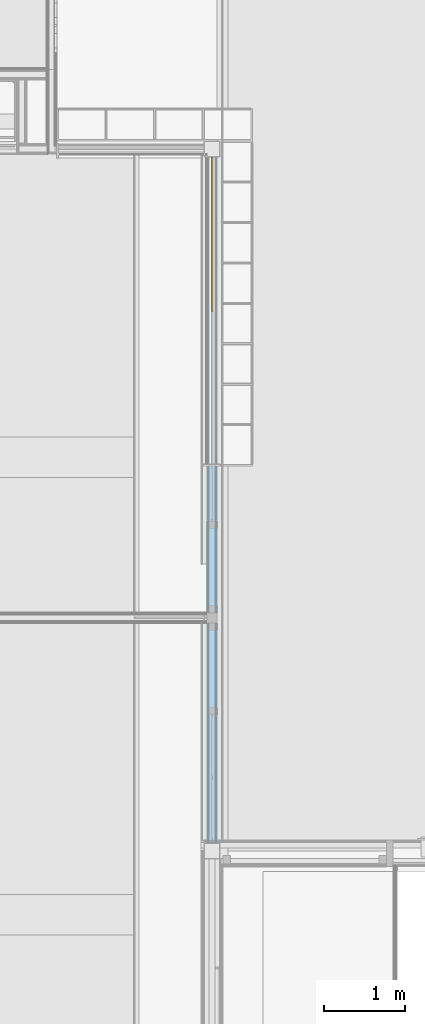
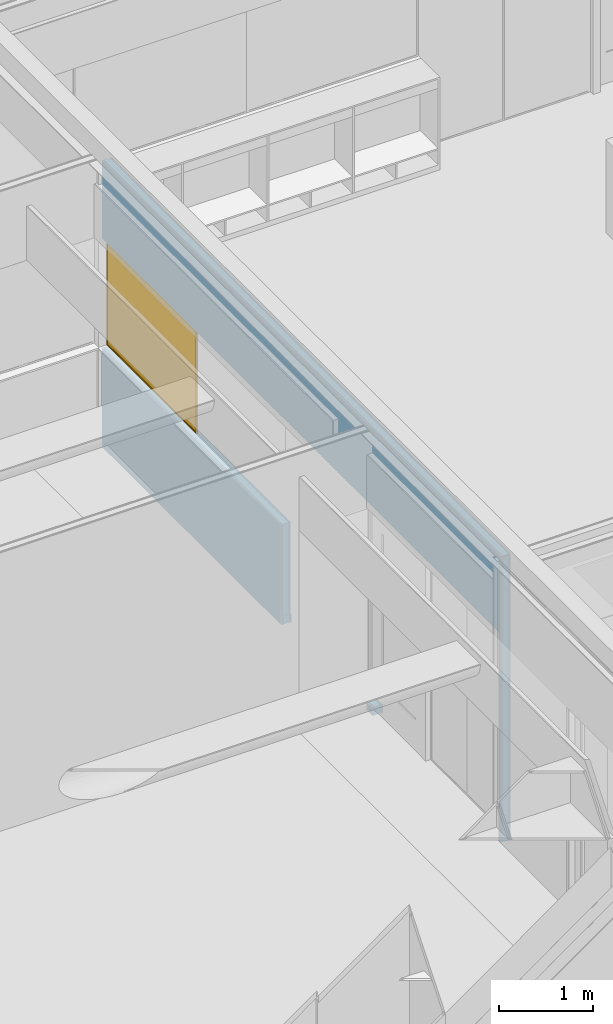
# One storey, part 62 of 137: 1 door, 7 openings, 1 element without a shape of its own, plus 5 elements that do not belong to this part.
"""IFC2X3 building model written with IfcOpenShell, lengths in millimetres."""

from ifc_helpers import new_model, entity, si_unit, converted_unit, derived_unit, money_unit, direction, frame, origin_with_axes, place, context, subcontext, project, spatial, open_shell, faceted_brep, surface_model, material, type_object, element, fill, aggregate, save


model = new_model("IFC2X3")

# Units and contexts
model_context = context("Model", 3, precision=0.01, world=origin_with_axes(), true_north=direction((0.0, 1.0)))
body_context = subcontext(model_context, "Body", "Model", "MODEL_VIEW")
ifc_project = project(units=[si_unit("LENGTHUNIT", "METRE", prefix="MILLI"), si_unit("AREAUNIT", "SQUARE_METRE"), si_unit("VOLUMEUNIT", "CUBIC_METRE"), converted_unit("PLANEANGLEUNIT", "DEGREE", entity("IfcPlaneAngleMeasure", 0.0174532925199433), si_unit("PLANEANGLEUNIT", "RADIAN"), dimensions=[0, 0, 0, 0, 0, 0, 0]), money_unit("EUR"), converted_unit("TIMEUNIT", "Year", entity("IfcTimeMeasure", 31556926.0), si_unit("TIMEUNIT", "SECOND"), dimensions=[0, 0, 1, 0, 0, 0, 0]), si_unit("MASSUNIT", "GRAM", prefix="KILO"), si_unit("THERMODYNAMICTEMPERATUREUNIT", "DEGREE_CELSIUS"), si_unit("LUMINOUSINTENSITYUNIT", "LUMEN"), si_unit("ENERGYUNIT", "JOULE", prefix="MEGA"), derived_unit("THERMALCONDUCTANCEUNIT", [(si_unit("POWERUNIT", "WATT"), 1), (si_unit("LENGTHUNIT", "METRE"), -1), (si_unit("THERMODYNAMICTEMPERATUREUNIT", "KELVIN"), -1)]), derived_unit("SPECIFICHEATCAPACITYUNIT", [(si_unit("ENERGYUNIT", "JOULE"), 1), (si_unit("MASSUNIT", "GRAM", prefix="KILO"), -1), (si_unit("THERMODYNAMICTEMPERATUREUNIT", "KELVIN"), -1)]), derived_unit("MASSDENSITYUNIT", [(si_unit("MASSUNIT", "GRAM", prefix="KILO"), 1), (si_unit("VOLUMEUNIT", "CUBIC_METRE"), -1)])], contexts=[model_context])

# Site, building, storey
site_placement = place(None, origin_with_axes())
site = spatial("IfcSite", under=ifc_project, at=site_placement, Name="Site", CompositionType="ELEMENT")
building_placement = place(site_placement, origin_with_axes())
building = spatial("IfcBuilding", under=site, at=building_placement, Name="Naam gebouw", CompositionType="ELEMENT")
storey_placement = place(building_placement, frame((0.0, 0.0, 3960.0), z_axis=(0.0, 0.0, 1.0), x_axis=(1.0, 0.0, 0.0)))
storey = spatial("IfcBuildingStorey", under=building, at=storey_placement, Name="1e verdieping", CompositionType="ELEMENT", Elevation=3960.0)

# Door
door_style = type_object("IfcDoorStyle", Name="R1 26", ConstructionType="NOTDEFINED", OperationType="SINGLE_SWING_RIGHT", ParameterTakesPrecedence=False, Sizeable=False)
proxy_placement = place(storey_placement, frame((8850.000000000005, 19449.9998112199, -100.0000000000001), z_axis=(0.0, 0.0, 1.0), x_axis=(0.0, -1.0, 0.0)))
opening_7_placement = place(proxy_placement, frame((1050.000000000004, 0.0, 1298.0), z_axis=(0.0, 0.0, 1.0), x_axis=(1.0, 0.0, 0.0)))
door_placement = place(opening_7_placement, frame((-949.9999999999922, 0.0, 0.0), z_axis=(0.0, 0.0, 1.0), x_axis=(1.0, 0.0, 0.0)))
door = element("IfcDoor", 1, at=door_placement, inside=storey, type_object=door_style, Name="_C.02", ObjectType="DOOR", OverallHeight=1400.0, OverallWidth=1900.0, context=body_context, shape_type="SurfaceModel", body=[
    faceted_brep([(1899.999999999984, 12.49999999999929, 2.000000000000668), (0.0, 12.49999999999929, 2.000000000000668), (0.0, 12.49999999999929, 19.99999999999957), (19.99999999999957, 12.49999999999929, 19.99999999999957), (1879.999999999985, 12.49999999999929, 19.99999999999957), (1899.999999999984, 12.49999999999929, 19.99999999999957), (0.0, -7.500000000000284, 2.000000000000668), (1899.999999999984, -7.500000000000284, 2.000000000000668), (0.0, -7.500000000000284, 19.99999999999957), (19.99999999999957, -7.500000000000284, 19.99999999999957), (1879.999999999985, -7.500000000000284, 19.99999999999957), (1899.999999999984, -7.500000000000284, 19.99999999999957)], [[[0, 1, 2, 3, 4, 5]], [[6, 1, 0, 7]], [[1, 6, 8, 2]], [[8, 9, 3, 2]], [[9, 10, 4, 3]], [[10, 11, 5, 4]], [[7, 0, 5, 11]], [[6, 7, 11, 10, 9, 8]]]),
    faceted_brep([(19.99999999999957, -7.500000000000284, 1380.0), (19.99999999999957, 12.49999999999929, 1380.0), (0.0, 12.49999999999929, 1380.0), (0.0, -7.500000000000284, 1380.0), (19.99999999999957, -7.500000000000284, 19.99999999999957), (19.99999999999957, 12.49999999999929, 19.99999999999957), (0.0, 12.49999999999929, 19.99999999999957), (0.0, -7.500000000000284, 19.99999999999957)], [[[0, 1, 2, 3]], [[4, 5, 1, 0]], [[1, 5, 6, 2]], [[3, 2, 6, 7]], [[0, 3, 7, 4]], [[7, 6, 5, 4]]]),
    faceted_brep([(1879.999999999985, -7.500000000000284, 19.99999999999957), (1879.999999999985, 12.49999999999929, 19.99999999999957), (1899.999999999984, 12.49999999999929, 19.99999999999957), (1899.999999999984, -7.500000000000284, 19.99999999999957), (1879.999999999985, -7.500000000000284, 1380.0), (1879.999999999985, 12.49999999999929, 1380.0), (1899.999999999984, 12.49999999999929, 1380.0), (1899.999999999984, -7.500000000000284, 1380.0)], [[[0, 1, 2, 3]], [[4, 5, 1, 0]], [[1, 5, 6, 2]], [[3, 2, 6, 7]], [[0, 3, 7, 4]], [[7, 6, 5, 4]]]),
    faceted_brep([(1879.999999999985, -7.500000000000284, 1380.0), (1879.999999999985, 12.49999999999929, 1380.0), (1899.999999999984, 12.49999999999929, 1380.0), (1899.999999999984, -7.500000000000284, 1380.0), (19.99999999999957, -7.500000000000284, 1380.0), (19.99999999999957, 12.49999999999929, 1380.0), (0.0, 12.49999999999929, 1380.0), (0.0, 12.49999999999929, 1400.0), (1899.999999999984, 12.49999999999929, 1400.0), (1899.999999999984, -7.500000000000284, 1400.0), (0.0, -7.500000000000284, 1400.0), (0.0, -7.500000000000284, 1380.0)], [[[0, 1, 2, 3]], [[4, 5, 1, 0]], [[1, 5, 6, 7, 8, 2]], [[3, 2, 8, 9]], [[0, 3, 9, 10, 11, 4]], [[11, 6, 5, 4]], [[10, 7, 6, 11]], [[9, 8, 7, 10]]]),
    surface_model("IfcShellBasedSurfaceModel", [(19.99999999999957, -2.500000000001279, 19.99999999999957), (1879.999999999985, -2.500000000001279, 19.99999999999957), (1879.999999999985, -2.500000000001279, 1380.0), (19.99999999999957, -2.500000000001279, 1380.0)], [open_shell([[[0, 1, 2, 3]]])]),
    surface_model("IfcShellBasedSurfaceModel", [(19.99999999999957, 7.500000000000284, 19.99999999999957), (19.99999999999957, 7.499999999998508, 1380.0), (1879.999999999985, 7.499999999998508, 1380.0), (1879.999999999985, 7.499999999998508, 19.99999999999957)], [open_shell([[[0, 1, 2, 3]]])]),
])

# Proxy, openings
building_element_proxy_type = type_object("IfcBuildingElementProxyType", Name="22 Metal stud 125 gips 125", PredefinedType="NOTDEFINED")
proxy = element("IfcBuildingElementProxy", 2, at=proxy_placement, inside=storey, type_object=building_element_proxy_type, Name="_Wand-x")
opening_1_placement = place(proxy_placement, frame((8119.999775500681, 0.0, 100.0000000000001), z_axis=(0.0, 0.0, 1.0), x_axis=(1.0, 0.0, 0.0)))
element("IfcOpeningElement", 3, at=opening_1_placement, cuts=proxy, Name="_B.08", context=body_context, shape_type="Brep", body=[
    faceted_brep([(-384.999925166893, 12.49999999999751, -100.0000000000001), (-384.999925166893, 12.49999999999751, 2600.0), (-384.999925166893, 63.49999999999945, 2600.0), (-384.999925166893, 63.49999999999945, -100.0000000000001), (-384.999925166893, -63.49999999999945, -100.0000000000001), (-384.999925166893, -63.49999999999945, 2600.0), (384.999925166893, 12.49999999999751, 2600.0), (384.999925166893, 63.49999999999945, 2600.0), (384.999925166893, -63.49999999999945, 2600.0), (384.999925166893, 63.49999999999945, -100.0000000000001), (384.999925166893, 12.49999999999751, -100.0000000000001), (384.999925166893, -63.49999999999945, -100.0000000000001)], [[[0, 1, 2, 3]], [[1, 0, 4, 5]], [[6, 7, 2, 1, 5, 8]], [[7, 9, 3, 2]], [[0, 3, 9, 10, 11, 4]], [[5, 4, 11, 8]], [[6, 10, 9, 7]], [[10, 6, 8, 11]]]),
])
opening_2_placement = place(proxy_placement, frame((2950.000000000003, 0.0, 1298.0), z_axis=(0.0, 0.0, 1.0), x_axis=(1.0, 0.0, 0.0)))
element("IfcOpeningElement", 4, at=opening_2_placement, cuts=proxy, Name="_C.02", context=body_context, shape_type="Brep", body=[
    faceted_brep([(-949.9999999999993, 12.49999999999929, 0.0), (-949.9999999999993, 12.49999999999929, 1400.0), (-949.9999999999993, 63.49999999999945, 1400.0), (-949.9999999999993, 63.49999999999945, 0.0), (-949.9999999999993, -63.49999999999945, 0.0), (-949.9999999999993, -63.49999999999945, 1400.0), (950.000000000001, 12.49999999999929, 1400.0), (950.000000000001, 63.49999999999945, 1400.0), (950.000000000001, -63.49999999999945, 1400.0), (950.000000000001, 63.49999999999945, 0.0), (950.000000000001, 12.49999999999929, 0.0), (950.000000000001, -63.49999999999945, 0.0)], [[[0, 1, 2, 3]], [[1, 0, 4, 5]], [[6, 7, 2, 1, 5, 8]], [[7, 9, 3, 2]], [[0, 3, 9, 10, 11, 4]], [[5, 4, 11, 8]], [[6, 10, 9, 7]], [[10, 6, 8, 11]]]),
])
opening_3_placement = place(proxy_placement, frame((4240.000000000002, 0.0, 100.0000000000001), z_axis=(0.0, 0.0, 1.0), x_axis=(1.0, 0.0, 0.0)))
element("IfcOpeningElement", 5, at=opening_3_placement, cuts=proxy, Name="_B.07", context=body_context, shape_type="Brep", body=[
    faceted_brep([(339.9999999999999, -12.49999999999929, -100.0000000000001), (339.9999999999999, -12.49999999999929, 2600.0), (339.9999999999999, -63.49999999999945, 2600.0), (339.9999999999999, -63.49999999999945, -100.0000000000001), (339.9999999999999, 63.49999999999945, -100.0000000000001), (339.9999999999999, 63.49999999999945, 2600.0), (-339.9999999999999, -12.49999999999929, 2600.0), (-339.9999999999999, -63.49999999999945, 2600.0), (-339.9999999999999, 63.49999999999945, 2600.0), (-339.9999999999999, -63.49999999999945, -100.0000000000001), (-339.9999999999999, -12.49999999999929, -100.0000000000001), (-339.9999999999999, 63.49999999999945, -100.0000000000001)], [[[0, 1, 2, 3]], [[1, 0, 4, 5]], [[6, 7, 2, 1, 5, 8]], [[7, 9, 3, 2]], [[0, 3, 9, 10, 11, 4]], [[5, 4, 11, 8]], [[6, 10, 9, 7]], [[10, 6, 8, 11]]]),
])
opening_4_placement = place(proxy_placement, frame((5145.000000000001, 0.0, 100.0000000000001), z_axis=(0.0, 0.0, 1.0), x_axis=(1.0, 0.0, 0.0)))
element("IfcOpeningElement", 6, at=opening_4_placement, cuts=proxy, Name="_02.01", context=body_context, shape_type="Brep", body=[
    faceted_brep([(564.9999999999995, 63.49999999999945, 2600.0), (564.9999999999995, 63.49999999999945, -100.0000000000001), (-564.9999999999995, 63.49999999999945, -100.0000000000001), (-564.9999999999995, 63.49999999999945, 2600.0), (564.9999999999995, -63.49999999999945, 2600.0), (564.9999999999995, -63.49999999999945, -100.0000000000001), (-564.9999999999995, -63.49999999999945, -100.0000000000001), (-564.9999999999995, -63.49999999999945, 2600.0)], [[[0, 1, 2, 3]], [[4, 5, 1, 0]], [[5, 6, 2, 1]], [[6, 7, 3, 2]], [[7, 4, 0, 3]], [[6, 5, 4, 7]]]),
])
opening_5_placement = place(proxy_placement, frame((7349.999925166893, 0.0, 100.0000000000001), z_axis=(0.0, 0.0, 1.0), x_axis=(1.0, 0.0, 0.0)))
element("IfcOpeningElement", 7, at=opening_5_placement, cuts=proxy, Name="_B.08", context=body_context, shape_type="Brep", body=[
    faceted_brep([(-384.999925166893, 12.49999999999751, -100.0000000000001), (-384.999925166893, 12.49999999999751, 2600.0), (-384.999925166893, 63.49999999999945, 2600.0), (-384.999925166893, 63.49999999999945, -100.0000000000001), (-384.999925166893, -63.49999999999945, -100.0000000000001), (-384.999925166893, -63.49999999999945, 2600.0), (384.999925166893, 12.49999999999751, 2600.0), (384.999925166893, 63.49999999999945, 2600.0), (384.999925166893, -63.49999999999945, 2600.0), (384.999925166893, 63.49999999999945, -100.0000000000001), (384.999925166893, 12.49999999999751, -100.0000000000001), (384.999925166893, -63.49999999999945, -100.0000000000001)], [[[0, 1, 2, 3]], [[1, 0, 4, 5]], [[6, 7, 2, 1, 5, 8]], [[7, 9, 3, 2]], [[0, 3, 9, 10, 11, 4]], [[5, 4, 11, 8]], [[6, 10, 9, 7]], [[10, 6, 8, 11]]]),
])
opening_6_placement = place(proxy_placement, frame((6400.0, 0.0, 100.0000000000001), z_axis=(0.0, 0.0, 1.0), x_axis=(1.0, 0.0, 0.0)))
element("IfcOpeningElement", 8, at=opening_6_placement, cuts=proxy, Name="_01.01", context=body_context, shape_type="Brep", body=[
    faceted_brep([(-564.9999999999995, -63.49999999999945, 2600.0), (-564.9999999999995, -63.49999999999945, -100.0000000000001), (564.9999999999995, -63.49999999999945, -100.0000000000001), (564.9999999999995, -63.49999999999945, 2600.0), (-564.9999999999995, 63.49999999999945, 2600.0), (-564.9999999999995, 63.49999999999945, -100.0000000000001), (564.9999999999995, 63.49999999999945, -100.0000000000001), (564.9999999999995, 63.49999999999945, 2600.0)], [[[0, 1, 2, 3]], [[4, 5, 1, 0]], [[5, 6, 2, 1]], [[6, 7, 3, 2]], [[7, 4, 0, 3]], [[6, 5, 4, 7]]]),
])
opening_7 = element("IfcOpeningElement", 9, at=opening_7_placement, cuts=proxy, Name="_C.02", context=body_context, shape_type="Brep", body=[
    faceted_brep([(-949.9999999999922, 12.49999999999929, 0.0), (-949.9999999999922, 12.49999999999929, 1400.0), (-949.9999999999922, 63.49999999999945, 1400.0), (-949.9999999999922, 63.49999999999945, 0.0), (-949.9999999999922, -63.49999999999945, 0.0), (-949.9999999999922, -63.49999999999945, 1400.0), (949.9999999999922, 12.49999999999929, 1400.0), (949.9999999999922, 63.49999999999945, 1400.0), (949.9999999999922, -63.49999999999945, 1400.0), (949.9999999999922, 63.49999999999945, 0.0), (949.9999999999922, 12.49999999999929, 0.0), (949.9999999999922, -63.49999999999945, 0.0)], [[[0, 1, 2, 3]], [[1, 0, 4, 5]], [[6, 7, 2, 1, 5, 8]], [[7, 9, 3, 2]], [[0, 3, 9, 10, 11, 4]], [[5, 4, 11, 8]], [[6, 10, 9, 7]], [[10, 6, 8, 11]]]),
])

fill(opening_7, door)

# Building element part
ifc_material_1 = material(Name="Gipsplaat")
building_element_part_1_placement = place(proxy_placement, origin_with_axes())
building_element_part_1 = element("IfcBuildingElementPart", 10, at=building_element_part_1_placement, material=ifc_material_1, Name="Gipsplaat", context=body_context, shape_type="Brep", body=[
    faceted_brep([(100.0000000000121, 37.49999999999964, 1280.000000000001), (100.0000000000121, 50.00000000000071, 1280.000000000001), (100.0000000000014, 50.00000000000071, 0.0), (100.0000000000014, 37.49999999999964, 0.0), (3880.004312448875, 50.00000000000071, 1280.000000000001), (3880.004288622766, 37.49999999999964, 1280.000000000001), (3880.004312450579, 50.00000000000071, 100.0000000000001), (3900.004312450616, 49.99999999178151, 100.0000000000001), (3900.000000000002, 50.00000000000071, 0.0), (3900.000000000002, 37.49999999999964, 0.0), (3900.004288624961, 37.49999999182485, 100.0000000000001), (3880.004288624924, 37.49999999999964, 100.0000000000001)], [[[0, 1, 2, 3]], [[4, 1, 0, 5]], [[1, 4, 6, 7, 8, 2]], [[9, 3, 2, 8]], [[5, 0, 3, 9, 10, 11]], [[4, 5, 11, 6]], [[6, 11, 10, 7]], [[10, 9, 8, 7]]]),
    faceted_brep([(8539.999700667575, 49.99999999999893, 0.0), (8504.999700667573, 49.99999999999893, 0.0), (8504.999700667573, 49.99999999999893, 2700.0), (5835.000000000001, 49.99999999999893, 2700.0), (5710.000000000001, 49.99999999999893, 2700.0), (3900.000000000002, 50.00000000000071, 2700.0), (3900.000000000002, 50.00000000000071, 2698.0), (100.0000000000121, 50.00000000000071, 2698.0), (100.0000000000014, 50.00000000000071, 3683.000002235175), (8539.999700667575, 49.99999999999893, 3683.000002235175), (8539.999700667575, 37.49999999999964, 0.0), (8504.999700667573, 37.49999999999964, 0.0), (8504.999700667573, 37.49999999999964, 2700.0), (5835.000000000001, 37.49999999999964, 2700.0), (5710.000000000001, 37.49999999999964, 2700.0), (3900.000000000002, 37.49999999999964, 2700.0), (3900.000000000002, 37.49999999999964, 2698.0), (100.0000000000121, 37.49999999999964, 2698.0), (100.0000000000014, 37.49999999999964, 3683.000002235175), (8539.999700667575, 37.49999999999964, 3683.000002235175)], [[[0, 1, 2, 3, 4, 5, 6, 7, 8, 9]], [[1, 0, 10, 11]], [[1, 11, 12, 2]], [[3, 2, 12, 13]], [[4, 3, 13, 14]], [[14, 15, 5, 4]], [[16, 6, 5, 15]], [[7, 6, 16, 17]], [[7, 17, 18, 8]], [[9, 8, 18, 19]], [[10, 0, 9, 19]], [[17, 16, 15, 14, 13, 12, 11, 10, 19, 18]]]),
    faceted_brep([(5710.000000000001, 37.49999999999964, 100.0000000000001), (5710.000000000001, 49.99999999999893, 100.0000000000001), (5710.000000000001, 49.99999999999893, 0.0), (5710.000000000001, 37.49999999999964, 0.0), (5835.000000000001, 49.99999999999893, 100.0000000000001), (5835.000000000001, 37.49999999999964, 100.0000000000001), (5835.000000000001, 49.99999999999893, 0.0), (5835.000000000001, 37.49999999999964, 0.0)], [[[0, 1, 2, 3]], [[4, 1, 0, 5]], [[1, 4, 6, 2]], [[2, 6, 7, 3]], [[5, 0, 3, 7]], [[4, 5, 7, 6]]]),
    faceted_brep([(100.0000000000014, 50.00000000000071, 3695.000002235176), (100.0000000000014, 50.00000000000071, 3699.999999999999), (8539.999700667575, 49.99999999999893, 3699.999999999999), (8539.999700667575, 49.99999999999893, 3695.000002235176), (100.0000000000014, 37.49999999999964, 3699.999999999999), (100.0000000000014, 37.49999999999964, 3695.000002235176), (8539.999700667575, 37.49999999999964, 3699.999999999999), (8539.999700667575, 37.49999999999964, 3695.000002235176)], [[[0, 1, 2, 3]], [[4, 1, 0, 5]], [[1, 4, 6, 2]], [[3, 2, 6, 7]], [[5, 0, 3, 7]], [[4, 5, 7, 6]]]),
])

building_element_part_2_placement = place(proxy_placement, origin_with_axes())
building_element_part_2 = element("IfcBuildingElementPart", 11, at=building_element_part_2_placement, material=ifc_material_1, Name="Gipsplaat", context=body_context, shape_type="Brep", body=[
    faceted_brep([(100.0000000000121, -50.00000000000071, 1280.000000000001), (100.0000000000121, -37.49999999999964, 1280.000000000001), (100.0000000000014, -37.49999999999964, 0.0), (100.0000000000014, -50.00000000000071, 0.0), (3880.004145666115, -37.49999999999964, 1280.000000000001), (3880.004121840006, -49.99999999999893, 1280.000000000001), (3880.004145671, -37.49999999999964, 100.0000000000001), (3900.004145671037, -37.50000000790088, 100.0000000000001), (3900.000000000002, -37.49999999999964, 0.0), (3900.000000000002, -50.00000000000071, 0.0), (3900.004121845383, -50.00000000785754, 100.0000000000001), (3880.004121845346, -49.99999999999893, 100.0000000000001)], [[[0, 1, 2, 3]], [[4, 1, 0, 5]], [[1, 4, 6, 7, 8, 2]], [[9, 3, 2, 8]], [[5, 0, 3, 9, 10, 11]], [[4, 5, 11, 6]], [[6, 11, 10, 7]], [[10, 9, 8, 7]]]),
    faceted_brep([(8539.999700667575, -37.50000000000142, 0.0), (8504.999700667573, -37.50000000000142, 0.0), (8504.999700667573, -37.50000000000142, 2700.0), (5835.000000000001, -37.50000000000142, 2700.0), (5710.000000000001, -37.50000000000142, 2700.0), (3900.000000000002, -37.49999999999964, 2700.0), (3900.000000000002, -37.49999999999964, 2698.0), (100.0000000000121, -37.49999999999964, 2698.0), (100.0000000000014, -37.49999999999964, 3683.000002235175), (8539.999700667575, -37.50000000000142, 3683.000002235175), (8539.999700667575, -50.00000000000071, 0.0), (8504.999700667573, -50.00000000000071, 0.0), (8504.999700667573, -50.00000000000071, 2700.0), (5835.000000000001, -49.99999999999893, 2700.0), (5710.000000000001, -49.99999999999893, 2700.0), (3900.000000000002, -49.99999999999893, 2700.0), (3900.000000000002, -49.99999999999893, 2698.0), (100.0000000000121, -49.99999999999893, 2698.0), (100.0000000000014, -49.99999999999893, 3683.000002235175), (8539.999700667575, -50.00000000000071, 3683.000002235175)], [[[0, 1, 2, 3, 4, 5, 6, 7, 8, 9]], [[1, 0, 10, 11]], [[1, 11, 12, 2]], [[3, 2, 12, 13]], [[4, 3, 13, 14]], [[14, 15, 5, 4]], [[16, 6, 5, 15]], [[7, 6, 16, 17]], [[7, 17, 18, 8]], [[9, 8, 18, 19]], [[10, 0, 9, 19]], [[17, 16, 15, 14, 13, 12, 11, 10, 19, 18]]]),
    faceted_brep([(5710.000000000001, -50.00000000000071, 100.0000000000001), (5710.000000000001, -37.50000000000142, 100.0000000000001), (5710.000000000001, -37.50000000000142, 0.0), (5710.000000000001, -50.00000000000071, 0.0), (5835.000000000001, -37.50000000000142, 100.0000000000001), (5835.000000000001, -50.00000000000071, 100.0000000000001), (5835.000000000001, -37.50000000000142, 0.0), (5835.000000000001, -50.00000000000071, 0.0)], [[[0, 1, 2, 3]], [[4, 1, 0, 5]], [[1, 4, 6, 2]], [[2, 6, 7, 3]], [[5, 0, 3, 7]], [[4, 5, 7, 6]]]),
    faceted_brep([(100.0000000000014, -37.49999999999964, 3695.000002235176), (100.0000000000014, -37.49999999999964, 3699.999999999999), (8539.999700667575, -37.50000000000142, 3699.999999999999), (8539.999700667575, -37.50000000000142, 3695.000002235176), (100.0000000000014, -49.99999999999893, 3699.999999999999), (100.0000000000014, -49.99999999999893, 3695.000002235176), (8539.999700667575, -50.00000000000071, 3699.999999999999), (8539.999700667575, -50.00000000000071, 3695.000002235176)], [[[0, 1, 2, 3]], [[4, 1, 0, 5]], [[1, 4, 6, 2]], [[3, 2, 6, 7]], [[5, 0, 3, 7]], [[4, 5, 7, 6]]]),
])

building_element_part_3_placement = place(proxy_placement, origin_with_axes())
building_element_part_3 = element("IfcBuildingElementPart", 12, at=building_element_part_3_placement, material=ifc_material_1, Name="Gipsplaat", context=body_context, shape_type="Brep", body=[
    faceted_brep([(100.0000000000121, -62.5, 1280.000000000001), (100.0000000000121, -50.00000000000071, 1280.000000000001), (100.0000000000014, -50.00000000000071, 0.0), (100.0000000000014, -62.5, 0.0), (3880.004121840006, -50.00000000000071, 1280.000000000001), (3880.004098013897, -62.5, 1280.000000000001), (3880.004121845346, -50.00000000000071, 100.0000000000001), (3900.004121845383, -50.00000000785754, 100.0000000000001), (3900.000000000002, -50.00000000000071, 0.0), (3900.000000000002, -62.5, 0.0), (3900.004098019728, -62.50000000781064, 100.0000000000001), (3880.004098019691, -62.5, 100.0000000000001)], [[[0, 1, 2, 3]], [[4, 1, 0, 5]], [[1, 4, 6, 7, 8, 2]], [[9, 3, 2, 8]], [[5, 0, 3, 9, 10, 11]], [[4, 5, 11, 6]], [[6, 11, 10, 7]], [[10, 9, 8, 7]]]),
    faceted_brep([(8539.999700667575, -50.00000000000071, 0.0), (8504.999700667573, -50.00000000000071, 0.0), (8504.999700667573, -50.00000000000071, 2700.0), (5835.000000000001, -50.00000000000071, 2700.0), (5710.000000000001, -50.00000000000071, 2700.0), (3900.000000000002, -50.00000000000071, 2700.0), (3900.000000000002, -50.00000000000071, 2698.0), (100.0000000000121, -49.99999999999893, 2698.0), (100.0000000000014, -49.99999999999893, 3683.000002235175), (8539.999700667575, -50.00000000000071, 3683.000002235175), (8539.999700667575, -62.50000000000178, 0.0), (8504.999700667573, -62.50000000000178, 0.0), (8504.999700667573, -62.5, 2700.0), (5835.000000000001, -62.5, 2700.0), (5710.000000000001, -62.5, 2700.0), (3900.000000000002, -62.5, 2700.0), (3900.000000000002, -62.5, 2698.0), (100.0000000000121, -62.5, 2698.0), (100.0000000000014, -62.5, 3683.000002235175), (8539.999700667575, -62.5, 3683.000002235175)], [[[0, 1, 2, 3, 4, 5, 6, 7, 8, 9]], [[1, 0, 10, 11]], [[1, 11, 12, 2]], [[3, 2, 12, 13]], [[4, 3, 13, 14]], [[14, 15, 5, 4]], [[16, 6, 5, 15]], [[7, 6, 16, 17]], [[7, 17, 18, 8]], [[9, 8, 18, 19]], [[10, 0, 9, 19]], [[17, 16, 15, 14, 13, 12, 11, 10, 19, 18]]]),
    faceted_brep([(5710.000000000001, -62.5, 100.0000000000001), (5710.000000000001, -50.00000000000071, 100.0000000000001), (5710.000000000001, -50.00000000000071, 0.0), (5710.000000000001, -62.50000000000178, 0.0), (5835.000000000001, -50.00000000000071, 100.0000000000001), (5835.000000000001, -62.5, 100.0000000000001), (5835.000000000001, -50.00000000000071, 0.0), (5835.000000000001, -62.50000000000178, 0.0)], [[[0, 1, 2, 3]], [[4, 1, 0, 5]], [[1, 4, 6, 2]], [[2, 6, 7, 3]], [[5, 0, 3, 7]], [[4, 5, 7, 6]]]),
    faceted_brep([(100.0000000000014, -49.99999999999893, 3695.000002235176), (100.0000000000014, -49.99999999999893, 3699.999999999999), (8539.999700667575, -50.00000000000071, 3699.999999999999), (8539.999700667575, -50.00000000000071, 3695.000002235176), (100.0000000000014, -62.5, 3699.999999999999), (100.0000000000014, -62.5, 3695.000002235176), (8539.999700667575, -62.5, 3699.999999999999), (8539.999700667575, -62.5, 3695.000002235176)], [[[0, 1, 2, 3]], [[4, 1, 0, 5]], [[1, 4, 6, 2]], [[3, 2, 6, 7]], [[5, 0, 3, 7]], [[4, 5, 7, 6]]]),
])

ifc_material_2 = material(Name="ALG - LICHTE SCHEIDINGSWAND")
building_element_part_4_placement = place(proxy_placement, origin_with_axes())
building_element_part_4 = element("IfcBuildingElementPart", 13, at=building_element_part_4_placement, material=ifc_material_2, Name="ALG - LICHTE SCHEIDINGSWAND", context=body_context, shape_type="Brep", body=[
    faceted_brep([(100.0000000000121, -37.49999999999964, 1280.000000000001), (100.0000000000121, 37.49999999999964, 1280.000000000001), (100.0000000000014, 37.49999999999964, 0.0), (100.0000000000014, -37.49999999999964, 0.0), (3880.004288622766, 37.49999999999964, 1280.000000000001), (3880.004145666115, -37.49999999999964, 1280.000000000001), (3880.004288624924, 37.49999999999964, 100.0000000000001), (3900.004288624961, 37.49999999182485, 100.0000000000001), (3900.000000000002, 37.49999999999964, 0.0), (3900.000000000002, -37.49999999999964, 0.0), (3900.004145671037, -37.50000000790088, 100.0000000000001), (3880.004145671, -37.49999999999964, 100.0000000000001)], [[[0, 1, 2, 3]], [[4, 1, 0, 5]], [[1, 4, 6, 7, 8, 2]], [[2, 8, 9, 3]], [[5, 0, 3, 9, 10, 11]], [[4, 5, 11, 6]], [[6, 11, 10, 7]], [[10, 9, 8, 7]]]),
    faceted_brep([(8539.999700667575, 37.49999999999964, 0.0), (8504.999700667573, 37.49999999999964, 0.0), (8504.999700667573, 37.49999999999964, 2700.0), (5835.000000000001, 37.49999999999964, 2700.0), (5710.000000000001, 37.49999999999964, 2700.0), (3900.000000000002, 37.49999999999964, 2700.0), (3900.000000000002, 37.49999999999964, 2698.0), (100.0000000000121, 37.49999999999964, 2698.0), (100.0000000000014, 37.49999999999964, 3683.000002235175), (8539.999700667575, 37.49999999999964, 3683.000002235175), (8504.999700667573, -37.50000000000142, 0.0), (8539.999700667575, -37.50000000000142, 0.0), (8504.999700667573, -37.50000000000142, 2700.0), (5835.000000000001, -37.50000000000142, 2700.0), (5710.000000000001, -37.50000000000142, 2700.0), (3900.000000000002, -37.49999999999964, 2700.0), (3900.000000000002, -37.49999999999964, 2698.0), (100.0000000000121, -37.49999999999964, 2698.0), (100.0000000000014, -37.49999999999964, 3683.000002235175), (8539.999700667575, -37.50000000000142, 3683.000002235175)], [[[0, 1, 2, 3, 4, 5, 6, 7, 8, 9]], [[10, 1, 0, 11]], [[10, 12, 2, 1]], [[3, 2, 12, 13]], [[4, 3, 13, 14]], [[14, 15, 5, 4]], [[6, 5, 15, 16]], [[6, 16, 17, 7]], [[8, 7, 17, 18]], [[8, 18, 19, 9]], [[0, 9, 19, 11]], [[17, 16, 15, 14, 13, 12, 10, 11, 19, 18]]]),
    faceted_brep([(5710.000000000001, -37.50000000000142, 100.0000000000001), (5710.000000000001, 37.49999999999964, 100.0000000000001), (5710.000000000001, 37.49999999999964, 0.0), (5710.000000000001, -37.50000000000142, 0.0), (5835.000000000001, 37.49999999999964, 100.0000000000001), (5835.000000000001, -37.50000000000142, 100.0000000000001), (5835.000000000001, 37.49999999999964, 0.0), (5835.000000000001, -37.50000000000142, 0.0)], [[[0, 1, 2, 3]], [[4, 1, 0, 5]], [[1, 4, 6, 2]], [[2, 6, 7, 3]], [[5, 0, 3, 7]], [[4, 5, 7, 6]]]),
    faceted_brep([(100.0000000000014, 37.49999999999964, 3695.000002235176), (100.0000000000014, 37.49999999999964, 3699.999999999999), (8539.999700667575, 37.49999999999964, 3699.999999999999), (8539.999700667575, 37.49999999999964, 3695.000002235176), (100.0000000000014, -37.49999999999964, 3699.999999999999), (100.0000000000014, -37.49999999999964, 3695.000002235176), (8539.999700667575, -37.50000000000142, 3699.999999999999), (8539.999700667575, -37.50000000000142, 3695.000002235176)], [[[0, 1, 2, 3]], [[4, 1, 0, 5]], [[1, 4, 6, 2]], [[3, 2, 6, 7]], [[5, 0, 3, 7]], [[4, 5, 7, 6]]]),
])

building_element_part_5_placement = place(proxy_placement, origin_with_axes())
building_element_part_5 = element("IfcBuildingElementPart", 14, at=building_element_part_5_placement, material=ifc_material_1, Name="Gipsplaat", context=body_context, shape_type="Brep", body=[
    faceted_brep([(100.0000000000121, 50.00000000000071, 1280.000000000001), (100.0000000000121, 62.5, 1280.000000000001), (100.0000000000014, 62.5, 0.0), (100.0000000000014, 50.00000000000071, 0.0), (3880.004336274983, 62.5, 1280.000000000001), (3880.004312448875, 50.00000000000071, 1280.000000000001), (3880.004336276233, 62.5, 100.0000000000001), (3900.00433627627, 62.49999999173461, 100.0000000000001), (3900.000000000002, 62.5, 0.0), (3900.000000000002, 50.00000000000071, 0.0), (3900.004312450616, 49.99999999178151, 100.0000000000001), (3880.004312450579, 50.00000000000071, 100.0000000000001)], [[[0, 1, 2, 3]], [[4, 1, 0, 5]], [[1, 4, 6, 7, 8, 2]], [[9, 3, 2, 8]], [[5, 0, 3, 9, 10, 11]], [[4, 5, 11, 6]], [[6, 11, 10, 7]], [[10, 9, 8, 7]]]),
    faceted_brep([(8539.999700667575, 62.49999999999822, 0.0), (8504.999700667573, 62.49999999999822, 0.0), (8504.999700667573, 62.49999999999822, 2700.0), (5835.000000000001, 62.5, 2700.0), (5710.000000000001, 62.5, 2700.0), (3900.000000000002, 62.5, 2700.0), (3900.000000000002, 62.5, 2698.0), (100.0000000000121, 62.5, 2698.0), (100.0000000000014, 62.5, 3683.000002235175), (8539.999700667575, 62.5, 3683.000002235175), (8539.999700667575, 49.99999999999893, 0.0), (8504.999700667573, 49.99999999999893, 0.0), (8504.999700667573, 50.00000000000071, 2700.0), (5835.000000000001, 50.00000000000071, 2700.0), (5710.000000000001, 50.00000000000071, 2700.0), (3900.000000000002, 50.00000000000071, 2700.0), (3900.000000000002, 50.00000000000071, 2698.0), (100.0000000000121, 50.00000000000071, 2698.0), (100.0000000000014, 50.00000000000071, 3683.000002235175), (8539.999700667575, 49.99999999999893, 3683.000002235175)], [[[0, 1, 2, 3, 4, 5, 6, 7, 8, 9]], [[1, 0, 10, 11]], [[1, 11, 12, 2]], [[3, 2, 12, 13]], [[4, 3, 13, 14]], [[14, 15, 5, 4]], [[16, 6, 5, 15]], [[7, 6, 16, 17]], [[7, 17, 18, 8]], [[9, 8, 18, 19]], [[10, 0, 9, 19]], [[17, 16, 15, 14, 13, 12, 11, 10, 19, 18]]]),
    faceted_brep([(5710.000000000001, 49.99999999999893, 100.0000000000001), (5710.000000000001, 62.5, 100.0000000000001), (5710.000000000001, 62.49999999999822, 0.0), (5710.000000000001, 49.99999999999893, 0.0), (5835.000000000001, 62.5, 100.0000000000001), (5835.000000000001, 49.99999999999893, 100.0000000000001), (5835.000000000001, 62.49999999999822, 0.0), (5835.000000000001, 49.99999999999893, 0.0)], [[[0, 1, 2, 3]], [[4, 1, 0, 5]], [[1, 4, 6, 2]], [[2, 6, 7, 3]], [[5, 0, 3, 7]], [[4, 5, 7, 6]]]),
    faceted_brep([(100.0000000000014, 62.5, 3695.000002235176), (100.0000000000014, 62.5, 3699.999999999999), (8539.999700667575, 62.5, 3699.999999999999), (8539.999700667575, 62.5, 3695.000002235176), (100.0000000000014, 50.00000000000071, 3699.999999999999), (100.0000000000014, 50.00000000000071, 3695.000002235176), (8539.999700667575, 49.99999999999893, 3699.999999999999), (8539.999700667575, 49.99999999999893, 3695.000002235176)], [[[0, 1, 2, 3]], [[4, 1, 0, 5]], [[1, 4, 6, 2]], [[3, 2, 6, 7]], [[5, 0, 3, 7]], [[4, 5, 7, 6]]]),
])

aggregate(proxy, [building_element_part_1, building_element_part_2, building_element_part_3, building_element_part_4, building_element_part_5])

save(model, "model.ifc")
